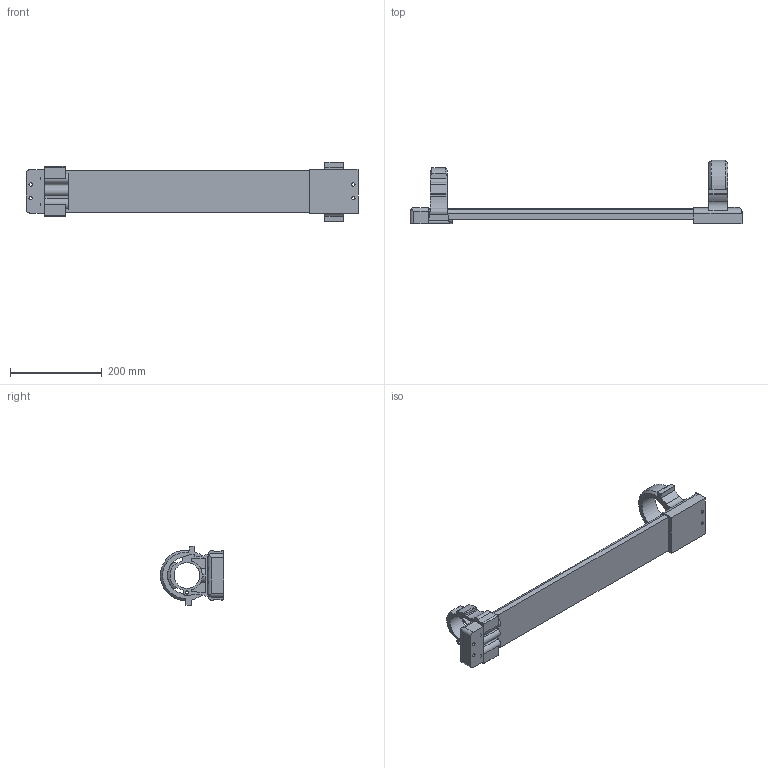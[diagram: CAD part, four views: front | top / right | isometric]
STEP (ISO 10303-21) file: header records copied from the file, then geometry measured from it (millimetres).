
FILE_DESCRIPTION( ( 'STEP AP214' ), '1' );
FILE_NAME( 'e:/temp/worker_14/temp/exporttempdir_956_262_8WVLv/format_0/ROBOWAY.stp', '2021-05-03T13:34:07', ( 'License CC BY-ND 4.0' ), ( 'CADENAS' ), ' ', 'PARTsolutions', ' ' );
FILE_SCHEMA( ( 'AUTOMOTIVE_DESIGN { 1 0 10303 214 1 1 1 1 }' ) );
Length unit declared in the file: millimetre
Products named in the file (5): 144143839 RW-36 500L; _RWM-36; _RWR-36; _ST-RAIL 36-500; _RWF-36
Assembly tree (4 placements, depth 2):
  144143839 RW-36 500L
    _RWM-36
    _RWR-36
    _ST-RAIL 36-500
    _RWF-36
Bounding box: 722 x 137.49 x 129.11 mm (x, y, z)
Volume: 1975856.8 mm3; surface area: 270333.8 mm2
Topology: 4 solids, 4 shells, 193 faces, 548 edges, 365 vertices
Faces by surface type: plane 96, cylinder 93, cone 4
Full cylindrical faces by diameter (mm): 7 x5, 11 x4, 13 x1, 19 x2, 24 x1, 56 x1, 80 x1
Entity records: 8295 total; most frequent: CARTESIAN_POINT 1542, DIRECTION 1095, ORIENTED_EDGE 1054, EDGE_CURVE 527, AXIS2_PLACEMENT_3D 395, VERTEX_POINT 360, LINE 305, VECTOR 305
